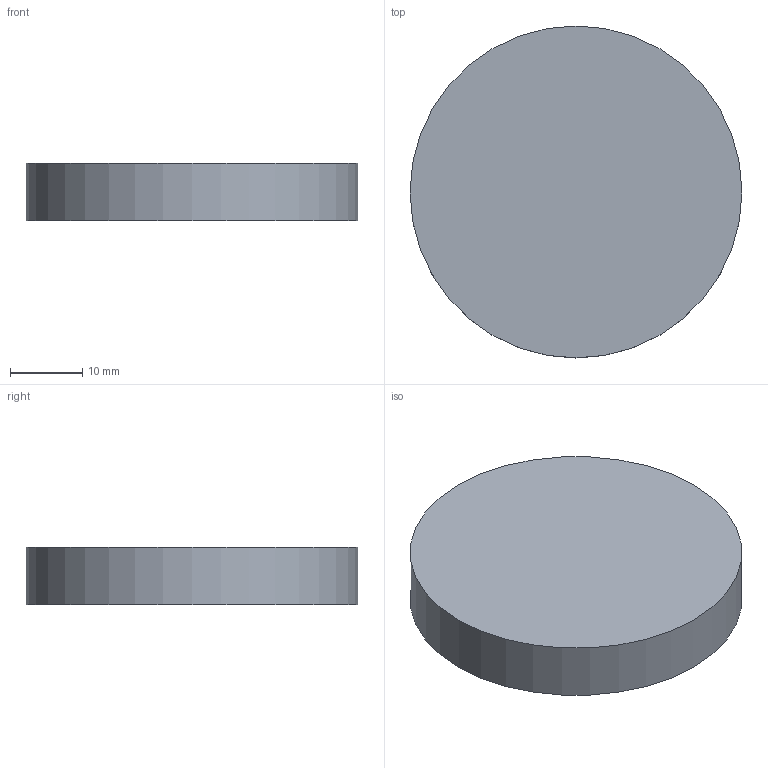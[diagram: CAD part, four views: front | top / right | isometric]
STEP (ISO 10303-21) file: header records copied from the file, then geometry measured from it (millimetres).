
FILE_DESCRIPTION(('Open CASCADE Model'),'2;1');
FILE_NAME('Open CASCADE Shape Model','2026-10-15T15:10:05',('Author'),( 'Open CASCADE'),'Open CASCADE STEP processor 8.0','Open CASCADE 8.0' ,'Unknown');
FILE_SCHEMA(('AUTOMOTIVE_DESIGN { 1 0 10303 214 1 1 1 1 }'));
Length unit declared in the file: millimetre
Products named in the file (1): TC12_CABEZA_D46_L8_P05 146
Bounding box: 46 x 46 x 8 mm (x, y, z)
Volume: 13295.2 mm3; surface area: 4479.9 mm2
Topology: 1 solids, 1 shells, 3 faces, 3 edges, 2 vertices
Faces by surface type: plane 2, cylinder 1
Full cylindrical faces by diameter (mm): 46 x1
Entity records: 108 total; most frequent: DIRECTION 19, CARTESIAN_POINT 15, AXIS2_PLACEMENT_3D 6, ORIENTED_EDGE 6, PCURVE 6, DEFINITIONAL_REPRESENTATION 6, LINE 5, VECTOR 5
